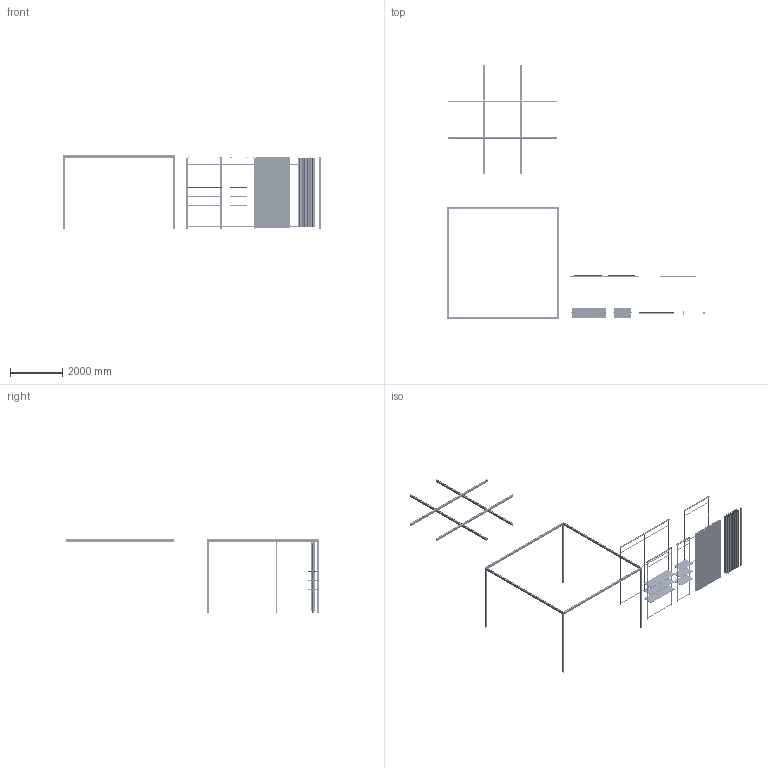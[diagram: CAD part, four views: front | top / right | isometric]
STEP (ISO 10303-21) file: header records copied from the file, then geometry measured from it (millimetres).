
FILE_DESCRIPTION(/* description */ (''),/* implementation_level */ '2;1');
FILE_NAME(/* name */ 'Aufbau_Planung',/* time_stamp */ '2026-07-27T14:33:05+02:00',/* author */ (''),/* organization */ (''),/* preprocessor_version */ 'ST-DEVELOPER v19.2',/* originating_system */ 'Rhino 8.32',/* authorisation */ '');
FILE_SCHEMA (('AUTOMOTIVE_DESIGN_CC2'));
Products named in the file (1): Document
Bounding box: 9848.99 x 9688.26 x 2802 mm (x, y, z)
Volume: 273597333.3 mm3; surface area: 68513482.1 mm2
Topology: 160 solids, 160 shells, 15205 faces, 42056 edges, 27601 vertices
Faces by surface type: plane 9159, cylinder 5145, bspline 901
Entity records: 529629 total; most frequent: CARTESIAN_POINT 200748, ORIENTED_EDGE 84034, EDGE_CURVE 42017, DIRECTION 34622, B_SPLINE_CURVE_WITH_KNOTS 31534, VERTEX_POINT 27586, AXIS2_PLACEMENT_3D 24463, EDGE_LOOP 16513
